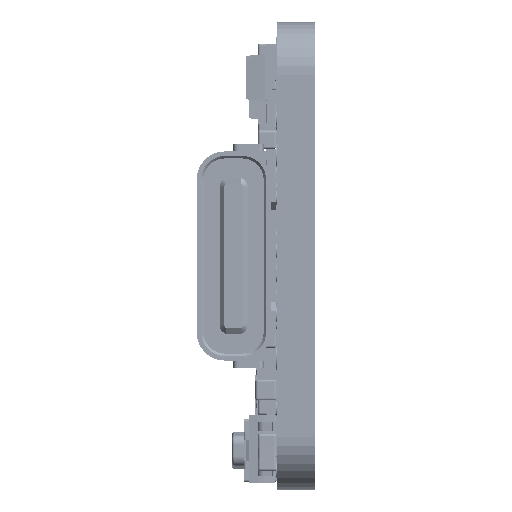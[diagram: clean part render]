
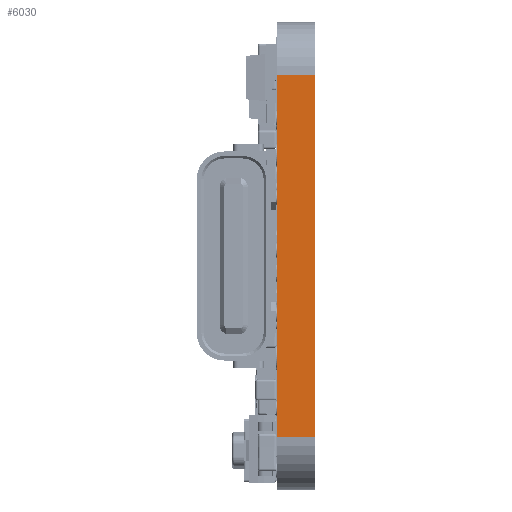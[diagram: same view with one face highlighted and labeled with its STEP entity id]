
A CAD part, left-side view. The second image highlights one B-rep face of the part: STEP entity #6030.
In plain terms, the highlighted planar face has unit normal (-1, 0, 0).
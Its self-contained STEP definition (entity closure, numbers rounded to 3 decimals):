
#6030 = ADVANCED_FACE ( 'NONE', ( #80665 ), #49572, .T. ) ;
#31057 = VERTEX_POINT ( 'NONE', #136649 ) ;
#31135 = VERTEX_POINT ( 'NONE', #136855 ) ;
#49502 = DIRECTION ( 'NONE',  ( -1., 0., 0. ) ) ;
#49517 = CARTESIAN_POINT ( 'NONE',  ( 100., -1.6, -102.25 ) ) ;
#49554 = DIRECTION ( 'NONE',  ( 0., 0., 1. ) ) ;
#49572 = PLANE ( 'NONE',  #76660 ) ;
#55159 = EDGE_CURVE ( 'NONE', #31057, #290806, #256670, .T. ) ;
#55424 = EDGE_CURVE ( 'NONE', #31135, #88875, #256727, .T. ) ;
#76660 = AXIS2_PLACEMENT_3D ( 'NONE', #49517, #49502, #49554 ) ;
#80665 = FACE_OUTER_BOUND ( 'NONE', #214788, .T. ) ;
#88875 = VERTEX_POINT ( 'NONE', #348009 ) ;
#129653 = VECTOR ( 'NONE', #136057, 1000. ) ;
#129686 = LINE ( 'NONE', #136020, #129653 ) ;
#136020 = CARTESIAN_POINT ( 'NONE',  ( 100., -1.6, -102.25 ) ) ;
#136057 = DIRECTION ( 'NONE',  ( 0., 0., 1. ) ) ;
#136649 = CARTESIAN_POINT ( 'NONE',  ( 100., -1.6, -102.25 ) ) ;
#136855 = CARTESIAN_POINT ( 'NONE',  ( 100., -1.6, -117.75 ) ) ;
#178456 = EDGE_CURVE ( 'NONE', #31135, #31057, #129686, .T. ) ;
#202786 = ORIENTED_EDGE ( 'NONE', *, *, #178456, .T. ) ;
#202992 = ORIENTED_EDGE ( 'NONE', *, *, #55159, .T. ) ;
#203016 = ORIENTED_EDGE ( 'NONE', *, *, #270501, .F. ) ;
#203153 = ORIENTED_EDGE ( 'NONE', *, *, #55424, .F. ) ;
#214788 = EDGE_LOOP ( 'NONE', ( #203016, #203153, #202786, #202992 ) ) ;
#255372 = CARTESIAN_POINT ( 'NONE',  ( 100., -1.6, -102.25 ) ) ;
#255393 = DIRECTION ( 'NONE',  ( 0., 1., 0. ) ) ;
#255553 = DIRECTION ( 'NONE',  ( 0., 1., 0. ) ) ;
#255565 = CARTESIAN_POINT ( 'NONE',  ( 100., -1.6, -117.75 ) ) ;
#256670 = LINE ( 'NONE', #255372, #256673 ) ;
#256673 = VECTOR ( 'NONE', #255393, 1000. ) ;
#256712 = VECTOR ( 'NONE', #255553, 1000. ) ;
#256727 = LINE ( 'NONE', #255565, #256712 ) ;
#270501 = EDGE_CURVE ( 'NONE', #88875, #290806, #292969, .T. ) ;
#290806 = VERTEX_POINT ( 'NONE', #303427 ) ;
#292969 = LINE ( 'NONE', #299787, #293026 ) ;
#293026 = VECTOR ( 'NONE', #299789, 1000. ) ;
#299787 = CARTESIAN_POINT ( 'NONE',  ( 100., 0., -102.25 ) ) ;
#299789 = DIRECTION ( 'NONE',  ( 0., 0., 1. ) ) ;
#303427 = CARTESIAN_POINT ( 'NONE',  ( 100., 0., -102.25 ) ) ;
#348009 = CARTESIAN_POINT ( 'NONE',  ( 100., 0., -117.75 ) ) ;
